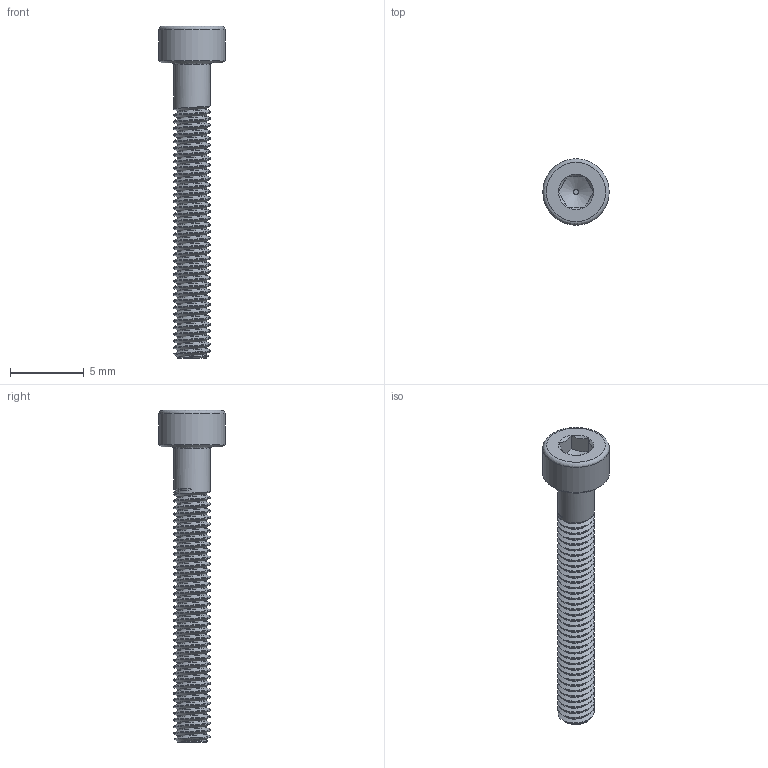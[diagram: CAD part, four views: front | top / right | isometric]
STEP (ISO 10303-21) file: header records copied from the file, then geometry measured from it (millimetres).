
FILE_DESCRIPTION(('FreeCAD Model'),'2;1');
FILE_NAME('Open CASCADE Shape Model','2022-06-02T20:33:50',( 'kicad StepUp'),('ksu MCAD'),'Open CASCADE STEP processor 7.5', 'FreeCAD','Unknown');
FILE_SCHEMA(('AUTOMOTIVE_DESIGN { 1 0 10303 214 1 1 1 1 }'));
Length unit declared in the file: millimetre
Products named in the file (1): M2.5x20-Screw
Bounding box: 4.5 x 4.5 x 22.5 mm (x, y, z)
Surface area: 293.2 mm2 (no closed solid volume)
Topology: 0 solids, 1 shells, 173 faces, 353 edges, 182 vertices
Faces by surface type: bspline 154, plane 9, cone 5, revolution 2, cylinder 2, sphere 1
Full cylindrical faces by diameter (mm): 2.5 x1, 4.5 x1
Entity records: 10632 total; most frequent: CARTESIAN_POINT 8268, ORIENTED_EDGE 702, EDGE_CURVE 352, B_SPLINE_CURVE_WITH_KNOTS 236, VERTEX_POINT 182, FACE_BOUND 175, EDGE_LOOP 175, ADVANCED_FACE 173
